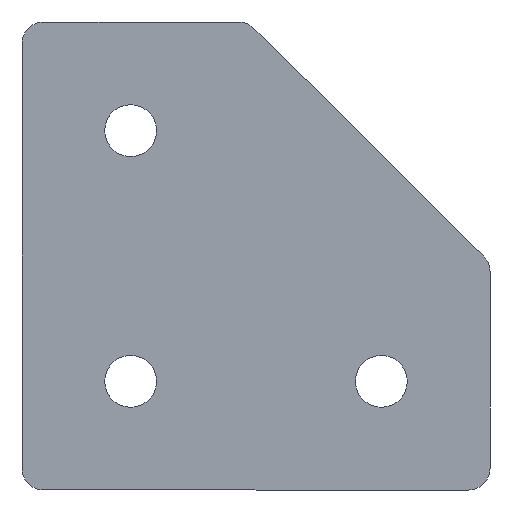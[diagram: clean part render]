
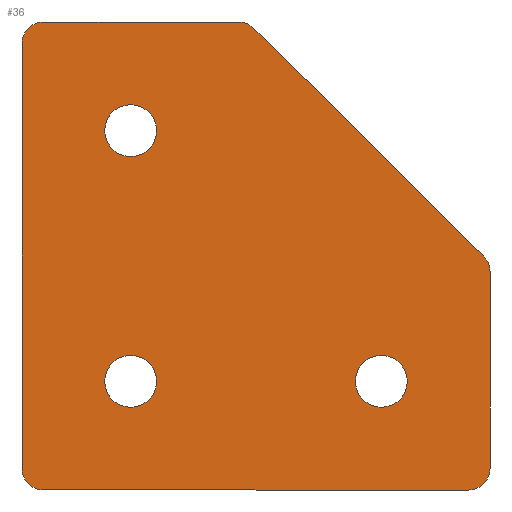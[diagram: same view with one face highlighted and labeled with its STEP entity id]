
A CAD part, front view. The second image highlights one B-rep face of the part: STEP entity #36.
In plain terms, the highlighted planar face has unit normal (0, -1, 0).
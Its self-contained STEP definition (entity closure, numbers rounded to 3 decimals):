
#4 = VECTOR ( 'NONE', #364, 1000. ) ;
#10 = DIRECTION ( 'NONE',  ( 0., 1., 0. ) ) ;
#17 = ORIENTED_EDGE ( 'NONE', *, *, #565, .T. ) ;
#30 = CARTESIAN_POINT ( 'NONE',  ( -16.61, 0., 42.811 ) ) ;
#34 = EDGE_LOOP ( 'NONE', ( #170, #298, #72, #57, #551, #636, #195, #250, #423, #523 ) ) ;
#36 = ADVANCED_FACE ( 'NONE', ( #238, #165, #199, #255 ), #457, .T. ) ;
#40 = VERTEX_POINT ( 'NONE', #667 ) ;
#49 = VERTEX_POINT ( 'NONE', #230 ) ;
#53 = DIRECTION ( 'NONE',  ( 0., 1., 0. ) ) ;
#54 = DIRECTION ( 'NONE',  ( 0., 1., 0. ) ) ;
#56 = EDGE_CURVE ( 'NONE', #76, #276, #208, .T. ) ;
#57 = ORIENTED_EDGE ( 'NONE', *, *, #531, .F. ) ;
#65 = AXIS2_PLACEMENT_3D ( 'NONE', #600, #297, #643 ) ;
#72 = ORIENTED_EDGE ( 'NONE', *, *, #459, .F. ) ;
#74 = VERTEX_POINT ( 'NONE', #80 ) ;
#75 = CIRCLE ( 'NONE', #296, 3.1 ) ;
#76 = VERTEX_POINT ( 'NONE', #438 ) ;
#77 = AXIS2_PLACEMENT_3D ( 'NONE', #534, #315, #104 ) ;
#80 = CARTESIAN_POINT ( 'NONE',  ( -29.539, 0., -0.689 ) ) ;
#82 = CARTESIAN_POINT ( 'NONE',  ( -42.539, 0., -7.989 ) ) ;
#84 = CARTESIAN_POINT ( 'NONE',  ( -14.779, 0., 44.657 ) ) ;
#86 = DIRECTION ( 'NONE',  ( 0., 0., -1. ) ) ;
#104 = DIRECTION ( 'NONE',  ( 0., 0., -1. ) ) ;
#105 = DIRECTION ( 'NONE',  ( 0., 1., 0. ) ) ;
#106 = EDGE_CURVE ( 'NONE', #49, #260, #75, .T. ) ;
#114 = CARTESIAN_POINT ( 'NONE',  ( -29.539, 0., 2.411 ) ) ;
#120 = AXIS2_PLACEMENT_3D ( 'NONE', #547, #239, #593 ) ;
#126 = LINE ( 'NONE', #617, #513 ) ;
#131 = VERTEX_POINT ( 'NONE', #268 ) ;
#132 = CARTESIAN_POINT ( 'NONE',  ( 12.692, 0., 17.415 ) ) ;
#141 = CARTESIAN_POINT ( 'NONE',  ( -29.539, 0., 35.511 ) ) ;
#146 = EDGE_LOOP ( 'NONE', ( #258, #635 ) ) ;
#154 = CARTESIAN_POINT ( 'NONE',  ( -29.539, 0., 32.411 ) ) ;
#155 = DIRECTION ( 'NONE',  ( 0., 1., 0. ) ) ;
#162 = CIRCLE ( 'NONE', #355, 3.1 ) ;
#165 = FACE_OUTER_BOUND ( 'NONE', #34, .T. ) ;
#168 = EDGE_CURVE ( 'NONE', #501, #76, #126, .T. ) ;
#169 = DIRECTION ( 'NONE',  ( 0., 0., 1. ) ) ;
#170 = ORIENTED_EDGE ( 'NONE', *, *, #257, .F. ) ;
#179 = VERTEX_POINT ( 'NONE', #575 ) ;
#180 = EDGE_CURVE ( 'NONE', #260, #49, #162, .T. ) ;
#192 = VERTEX_POINT ( 'NONE', #661 ) ;
#195 = ORIENTED_EDGE ( 'NONE', *, *, #56, .F. ) ;
#197 = CIRCLE ( 'NONE', #435, 2.6 ) ;
#199 = FACE_BOUND ( 'NONE', #597, .T. ) ;
#208 = CIRCLE ( 'NONE', #120, 2.6 ) ;
#212 = DIRECTION ( 'NONE',  ( 0., 0., 1. ) ) ;
#221 = CARTESIAN_POINT ( 'NONE',  ( 12.692, 0., 17.415 ) ) ;
#226 = VERTEX_POINT ( 'NONE', #82 ) ;
#230 = CARTESIAN_POINT ( 'NONE',  ( -29.539, 0., 29.311 ) ) ;
#236 = VECTOR ( 'NONE', #388, 1000. ) ;
#238 = FACE_BOUND ( 'NONE', #146, .T. ) ;
#239 = DIRECTION ( 'NONE',  ( 0., 1., 0. ) ) ;
#242 = EDGE_LOOP ( 'NONE', ( #411, #243 ) ) ;
#243 = ORIENTED_EDGE ( 'NONE', *, *, #480, .T. ) ;
#244 = EDGE_CURVE ( 'NONE', #556, #501, #197, .T. ) ;
#250 = ORIENTED_EDGE ( 'NONE', *, *, #168, .F. ) ;
#254 = CARTESIAN_POINT ( 'NONE',  ( 10.861, 0., 15.568 ) ) ;
#255 = FACE_BOUND ( 'NONE', #242, .T. ) ;
#257 = EDGE_CURVE ( 'NONE', #131, #351, #631, .T. ) ;
#258 = ORIENTED_EDGE ( 'NONE', *, *, #106, .T. ) ;
#260 = VERTEX_POINT ( 'NONE', #141 ) ;
#267 = LINE ( 'NONE', #577, #4 ) ;
#268 = CARTESIAN_POINT ( 'NONE',  ( -16.61, 0., 45.411 ) ) ;
#276 = VERTEX_POINT ( 'NONE', #306 ) ;
#282 = DIRECTION ( 'NONE',  ( -1., 0., 0. ) ) ;
#288 = AXIS2_PLACEMENT_3D ( 'NONE', #114, #477, #169 ) ;
#296 = AXIS2_PLACEMENT_3D ( 'NONE', #154, #522, #212 ) ;
#297 = DIRECTION ( 'NONE',  ( 0., 1., 0. ) ) ;
#298 = ORIENTED_EDGE ( 'NONE', *, *, #349, .F. ) ;
#303 = DIRECTION ( 'NONE',  ( 0., 0., 1. ) ) ;
#305 = LINE ( 'NONE', #341, #236 ) ;
#306 = CARTESIAN_POINT ( 'NONE',  ( 10.861, 0., -10.589 ) ) ;
#311 = EDGE_CURVE ( 'NONE', #351, #556, #618, .T. ) ;
#315 = DIRECTION ( 'NONE',  ( 0., -1., 0. ) ) ;
#324 = EDGE_CURVE ( 'NONE', #40, #334, #606, .T. ) ;
#332 = CARTESIAN_POINT ( 'NONE',  ( -39.939, 0., 42.811 ) ) ;
#334 = VERTEX_POINT ( 'NONE', #611 ) ;
#341 = CARTESIAN_POINT ( 'NONE',  ( -16.61, 0., 45.411 ) ) ;
#347 = CARTESIAN_POINT ( 'NONE',  ( -42.539, 0., 42.811 ) ) ;
#349 = EDGE_CURVE ( 'NONE', #179, #131, #305, .T. ) ;
#351 = VERTEX_POINT ( 'NONE', #84 ) ;
#353 = CIRCLE ( 'NONE', #288, 3.1 ) ;
#355 = AXIS2_PLACEMENT_3D ( 'NONE', #420, #105, #470 ) ;
#364 = DIRECTION ( 'NONE',  ( 0., 0., 1. ) ) ;
#366 = CARTESIAN_POINT ( 'NONE',  ( -39.939, 0., -7.989 ) ) ;
#367 = CARTESIAN_POINT ( 'NONE',  ( -29.539, 0., 2.411 ) ) ;
#371 = CARTESIAN_POINT ( 'NONE',  ( 10.861, 0., -10.589 ) ) ;
#376 = DIRECTION ( 'NONE',  ( 0., 0., 1. ) ) ;
#380 = AXIS2_PLACEMENT_3D ( 'NONE', #332, #10, #376 ) ;
#381 = LINE ( 'NONE', #371, #400 ) ;
#388 = DIRECTION ( 'NONE',  ( 1., 0., 0. ) ) ;
#398 = DIRECTION ( 'NONE',  ( 0., 1., 0. ) ) ;
#400 = VECTOR ( 'NONE', #282, 1000. ) ;
#403 = VERTEX_POINT ( 'NONE', #347 ) ;
#410 = EDGE_CURVE ( 'NONE', #192, #74, #353, .T. ) ;
#411 = ORIENTED_EDGE ( 'NONE', *, *, #324, .T. ) ;
#420 = CARTESIAN_POINT ( 'NONE',  ( -29.539, 0., 32.411 ) ) ;
#423 = ORIENTED_EDGE ( 'NONE', *, *, #244, .F. ) ;
#425 = DIRECTION ( 'NONE',  ( 0., 0., -1. ) ) ;
#427 = DIRECTION ( 'NONE',  ( 0., 0., 1. ) ) ;
#435 = AXIS2_PLACEMENT_3D ( 'NONE', #254, #607, #303 ) ;
#438 = CARTESIAN_POINT ( 'NONE',  ( 13.461, 0., -7.989 ) ) ;
#439 = VECTOR ( 'NONE', #499, 1000. ) ;
#448 = CIRCLE ( 'NONE', #380, 2.6 ) ;
#456 = CIRCLE ( 'NONE', #490, 3.1 ) ;
#457 = PLANE ( 'NONE',  #77 ) ;
#459 = EDGE_CURVE ( 'NONE', #403, #179, #448, .T. ) ;
#465 = CARTESIAN_POINT ( 'NONE',  ( 0.461, 0., 2.411 ) ) ;
#470 = DIRECTION ( 'NONE',  ( 0., 0., 1. ) ) ;
#477 = DIRECTION ( 'NONE',  ( 0., 1., 0. ) ) ;
#480 = EDGE_CURVE ( 'NONE', #334, #40, #456, .T. ) ;
#490 = AXIS2_PLACEMENT_3D ( 'NONE', #465, #155, #524 ) ;
#499 = DIRECTION ( 'NONE',  ( 0.71, 0., -0.704 ) ) ;
#501 = VERTEX_POINT ( 'NONE', #574 ) ;
#513 = VECTOR ( 'NONE', #525, 1000. ) ;
#522 = DIRECTION ( 'NONE',  ( 0., 1., 0. ) ) ;
#523 = ORIENTED_EDGE ( 'NONE', *, *, #311, .F. ) ;
#524 = DIRECTION ( 'NONE',  ( 0., 0., 1. ) ) ;
#525 = DIRECTION ( 'NONE',  ( 0., 0., -1. ) ) ;
#530 = VERTEX_POINT ( 'NONE', #619 ) ;
#531 = EDGE_CURVE ( 'NONE', #226, #403, #267, .T. ) ;
#534 = CARTESIAN_POINT ( 'NONE',  ( -16.61, 0., 42.811 ) ) ;
#547 = CARTESIAN_POINT ( 'NONE',  ( 10.861, 0., -7.989 ) ) ;
#551 = ORIENTED_EDGE ( 'NONE', *, *, #595, .F. ) ;
#556 = VERTEX_POINT ( 'NONE', #221 ) ;
#561 = CIRCLE ( 'NONE', #650, 2.6 ) ;
#565 = EDGE_CURVE ( 'NONE', #74, #192, #573, .T. ) ;
#569 = ORIENTED_EDGE ( 'NONE', *, *, #410, .T. ) ;
#571 = AXIS2_PLACEMENT_3D ( 'NONE', #30, #398, #86 ) ;
#573 = CIRCLE ( 'NONE', #594, 3.1 ) ;
#574 = CARTESIAN_POINT ( 'NONE',  ( 13.461, 0., 15.568 ) ) ;
#575 = CARTESIAN_POINT ( 'NONE',  ( -39.939, 0., 45.411 ) ) ;
#577 = CARTESIAN_POINT ( 'NONE',  ( -42.539, 0., 42.811 ) ) ;
#593 = DIRECTION ( 'NONE',  ( 0., 0., -1. ) ) ;
#594 = AXIS2_PLACEMENT_3D ( 'NONE', #367, #54, #427 ) ;
#595 = EDGE_CURVE ( 'NONE', #530, #226, #561, .T. ) ;
#597 = EDGE_LOOP ( 'NONE', ( #17, #569 ) ) ;
#600 = CARTESIAN_POINT ( 'NONE',  ( 0.461, 0., 2.411 ) ) ;
#606 = CIRCLE ( 'NONE', #65, 3.1 ) ;
#607 = DIRECTION ( 'NONE',  ( 0., 1., 0. ) ) ;
#611 = CARTESIAN_POINT ( 'NONE',  ( 0.461, 0., 5.511 ) ) ;
#617 = CARTESIAN_POINT ( 'NONE',  ( 13.461, 0., -7.989 ) ) ;
#618 = LINE ( 'NONE', #132, #439 ) ;
#619 = CARTESIAN_POINT ( 'NONE',  ( -39.939, 0., -10.589 ) ) ;
#631 = CIRCLE ( 'NONE', #571, 2.6 ) ;
#635 = ORIENTED_EDGE ( 'NONE', *, *, #180, .T. ) ;
#636 = ORIENTED_EDGE ( 'NONE', *, *, #656, .F. ) ;
#643 = DIRECTION ( 'NONE',  ( 0., 0., 1. ) ) ;
#650 = AXIS2_PLACEMENT_3D ( 'NONE', #366, #53, #425 ) ;
#656 = EDGE_CURVE ( 'NONE', #276, #530, #381, .T. ) ;
#661 = CARTESIAN_POINT ( 'NONE',  ( -29.539, 0., 5.511 ) ) ;
#667 = CARTESIAN_POINT ( 'NONE',  ( 0.461, 0., -0.689 ) ) ;
